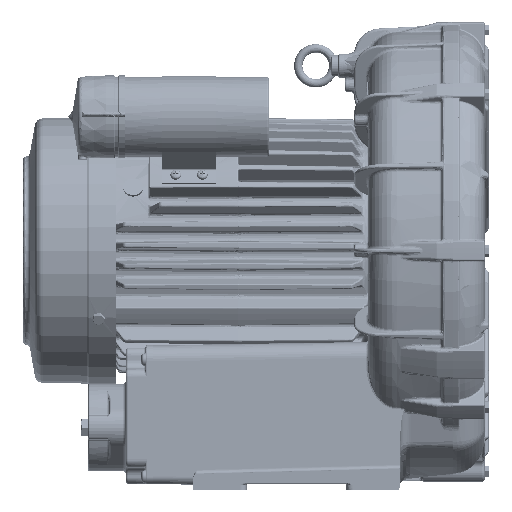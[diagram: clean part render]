
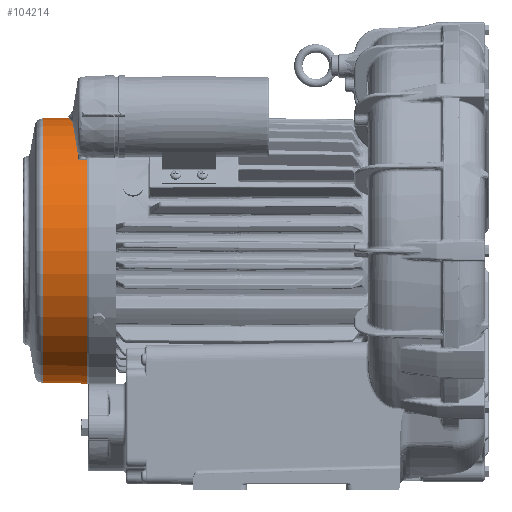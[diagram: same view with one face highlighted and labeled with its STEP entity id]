
A CAD part, left-side view. The second image highlights one B-rep face of the part: STEP entity #104214.
In plain terms, the highlighted conical face has half-angle 1 degrees and reference radius 99.66 mm.
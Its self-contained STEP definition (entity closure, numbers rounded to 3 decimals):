
#8536=CONICAL_SURFACE('',#113666,99.66,1.);
#9889=FACE_BOUND('',#21846,.T.);
#15123=FACE_OUTER_BOUND('',#21845,.T.);
#21845=EDGE_LOOP('',(#80268));
#21846=EDGE_LOOP('',(#80269));
#28421=CIRCLE('',#113665,99.991);
#28422=CIRCLE('',#113667,99.405);
#42228=VERTEX_POINT('',#246016);
#42229=VERTEX_POINT('',#246019);
#55221=EDGE_CURVE('',#42228,#42228,#28421,.T.);
#55222=EDGE_CURVE('',#42229,#42229,#28422,.T.);
#80268=ORIENTED_EDGE('',*,*,#55222,.F.);
#80269=ORIENTED_EDGE('',*,*,#55221,.F.);
#104214=ADVANCED_FACE('',(#15123,#9889),#8536,.T.);
#113665=AXIS2_PLACEMENT_3D('',#246017,#132834,#132835);
#113666=AXIS2_PLACEMENT_3D('',#246018,#132836,#132837);
#113667=AXIS2_PLACEMENT_3D('',#246020,#132838,#132839);
#132834=DIRECTION('center_axis',(0.,-1.,0.));
#132835=DIRECTION('ref_axis',(0.,0.,
-1.));
#132836=DIRECTION('center_axis',(0.,-1.,0.));
#132837=DIRECTION('ref_axis',(0.,0.,
1.));
#132838=DIRECTION('center_axis',(0.,1.,0.));
#132839=DIRECTION('ref_axis',(0.,0.,
-1.));
#246016=CARTESIAN_POINT('',(0.,274.791,99.991));
#246017=CARTESIAN_POINT('Origin',(0.,274.791,
0.));
#246018=CARTESIAN_POINT('Origin',(0.,293.803,
0.));
#246019=CARTESIAN_POINT('',(0.,308.361,99.405));
#246020=CARTESIAN_POINT('Origin',(0.,308.361,
0.));
